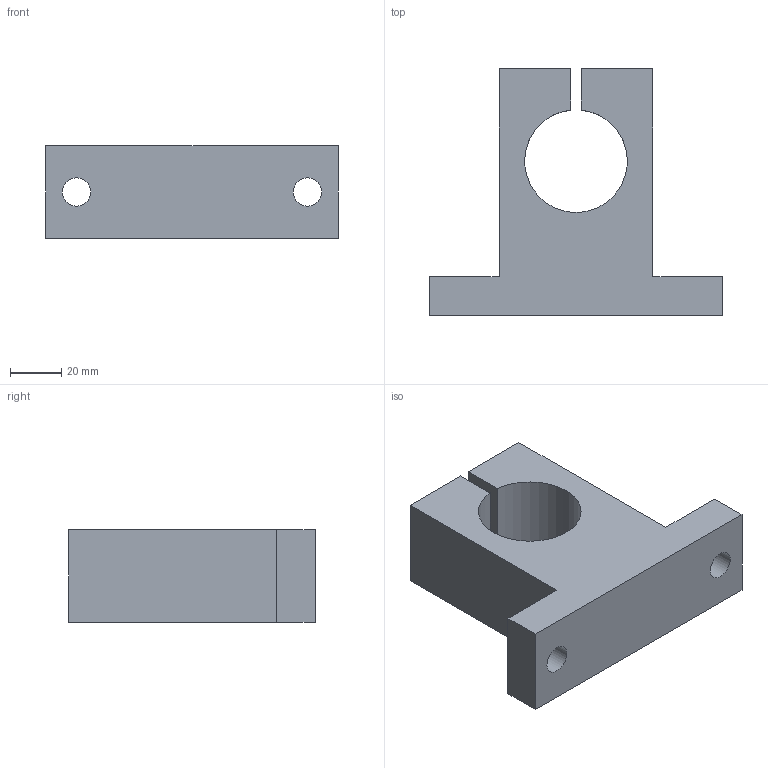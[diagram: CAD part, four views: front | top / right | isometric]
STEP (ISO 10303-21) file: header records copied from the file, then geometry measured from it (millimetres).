
FILE_DESCRIPTION( ( 'STEP AP203' ), '1' );
FILE_NAME( 'p:/temp/worker_7/temp/exporttempdir_3448_440_qBBEl/format_0/SK40.stp', '2020-05-08T01:33:35', ( 'License CC BY-ND 4.0' ), ( 'CADENAS' ), ' ', 'PARTsolutions', ' ' );
FILE_SCHEMA( ( 'CONFIG_CONTROL_DESIGN' ) );
Length unit declared in the file: millimetre
Products named in the file (1): _SK40
Bounding box: 114 x 96 x 36 mm (x, y, z)
Volume: 186121.3 mm3; surface area: 31669.9 mm2
Topology: 1 solids, 1 shells, 16 faces, 42 edges, 28 vertices
Faces by surface type: plane 13, cylinder 3
Full cylindrical faces by diameter (mm): 11 x2
Entity records: 534 total; most frequent: CARTESIAN_POINT 85, DIRECTION 80, ORIENTED_EDGE 80, EDGE_CURVE 40, LINE 34, VECTOR 34, VERTEX_POINT 28, AXIS2_PLACEMENT_3D 23
